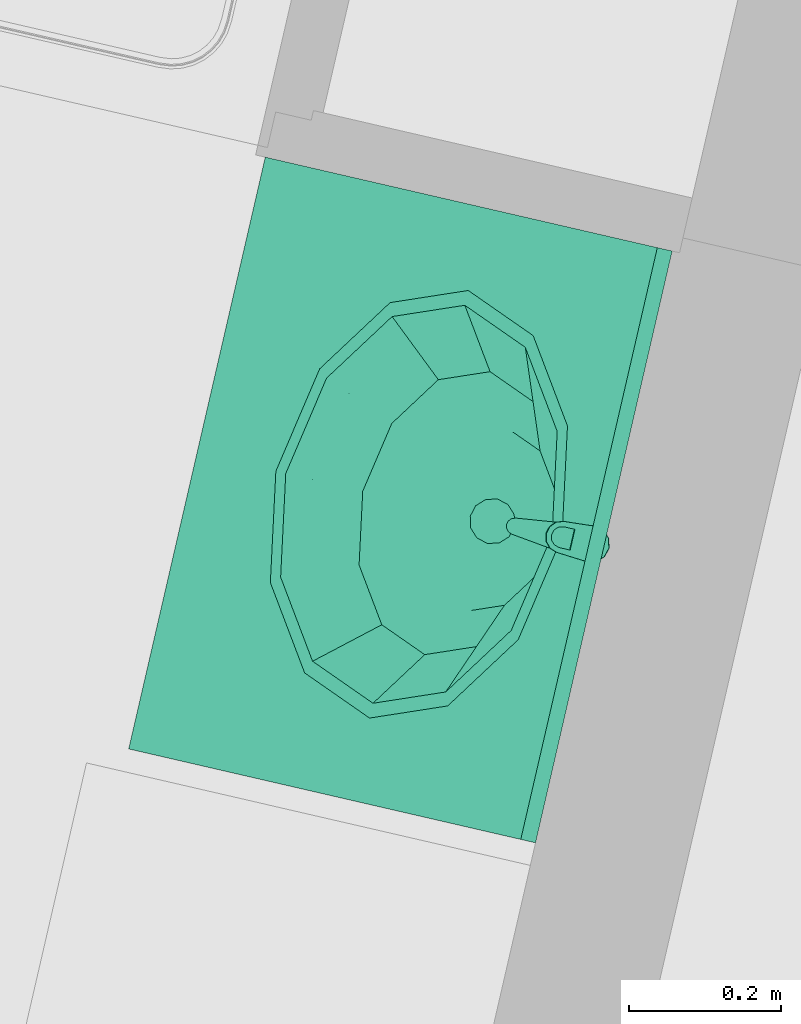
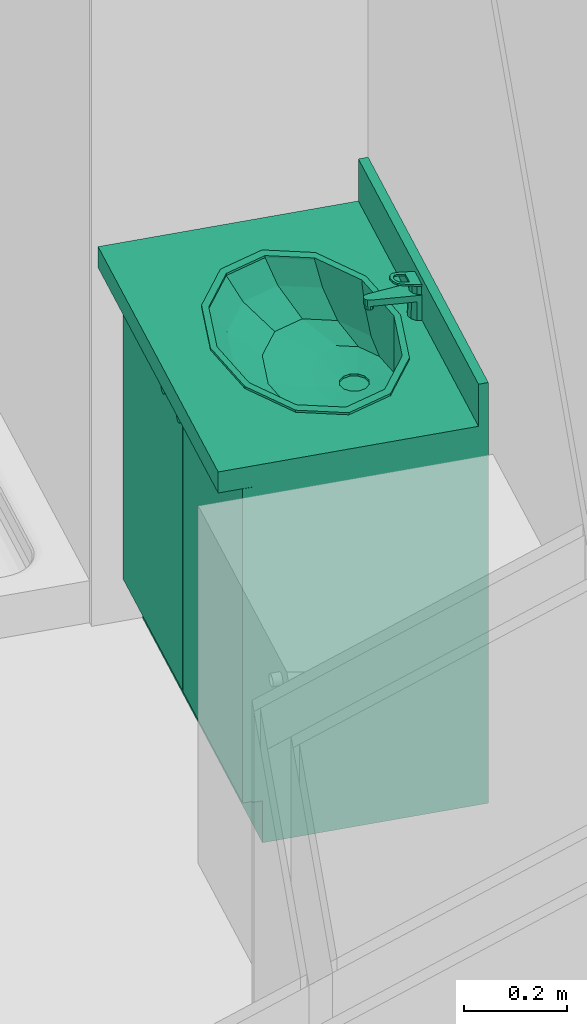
# One storey, part 77 of 90: 1 flow terminal.
"""IFC2X3 building model written with IfcOpenShell, lengths in metres."""

from ifc_helpers import new_model, entity, si_unit, converted_unit, derived_unit, money_unit, direction, frame, origin_with_axes, place, context, subcontext, project, spatial, open_shell, faceted_brep, surface_model, source, transform, mapped, type_object, element, save


model = new_model("IFC2X3")

# Units and contexts
model_context = context("Model", 3, precision=1e-05, world=origin_with_axes(), true_north=direction((0.0, 1.0)))
body_context = subcontext(model_context, "Body", "Model", "MODEL_VIEW")
ifc_project = project(units=[si_unit("LENGTHUNIT", "METRE"), si_unit("AREAUNIT", "SQUARE_METRE"), si_unit("VOLUMEUNIT", "CUBIC_METRE"), converted_unit("PLANEANGLEUNIT", "DEGREE", entity("IfcPlaneAngleMeasure", 0.0174532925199), si_unit("PLANEANGLEUNIT", "RADIAN"), dimensions=[0, 0, 0, 0, 0, 0, 0]), si_unit("SOLIDANGLEUNIT", "STERADIAN"), money_unit("EUR"), converted_unit("TIMEUNIT", "Year", entity("IfcTimeMeasure", 31556926.0), si_unit("TIMEUNIT", "SECOND"), dimensions=[0, 0, 1, 0, 0, 0, 0]), si_unit("MASSUNIT", "GRAM", prefix="KILO"), si_unit("THERMODYNAMICTEMPERATUREUNIT", "DEGREE_CELSIUS"), si_unit("LUMINOUSINTENSITYUNIT", "LUMEN"), si_unit("ENERGYUNIT", "JOULE", prefix="MEGA"), derived_unit("THERMALCONDUCTANCEUNIT", [(si_unit("POWERUNIT", "WATT"), 1), (si_unit("LENGTHUNIT", "METRE"), -1), (si_unit("THERMODYNAMICTEMPERATUREUNIT", "KELVIN"), -1)]), derived_unit("SPECIFICHEATCAPACITYUNIT", [(si_unit("ENERGYUNIT", "JOULE"), 1), (si_unit("MASSUNIT", "GRAM", prefix="KILO"), -1), (si_unit("THERMODYNAMICTEMPERATUREUNIT", "KELVIN"), -1)]), derived_unit("MASSDENSITYUNIT", [(si_unit("MASSUNIT", "GRAM", prefix="KILO"), 1), (si_unit("VOLUMEUNIT", "CUBIC_METRE"), -1)])], contexts=[model_context])

# Site, building, storey
site_placement = place(None, origin_with_axes())
site = spatial("IfcSite", under=ifc_project, at=site_placement, Name="Site", CompositionType="ELEMENT")
building_placement = place(site_placement, origin_with_axes())
building = spatial("IfcBuilding", under=site, at=building_placement, Name="Bâtiment", CompositionType="ELEMENT")
storey_placement = place(building_placement, frame((0.0, 0.0, 2.72), z_axis=(0.0, 0.0, 1.0), x_axis=(1.0, 0.0, 0.0)))
storey = spatial("IfcBuildingStorey", under=building, at=storey_placement, Name="R+1", CompositionType="ELEMENT", Elevation=2.72)

# Flow terminal
sanitary_terminal_type = type_object("IfcSanitaryTerminalType", Name="Lavabo sur meuble 23", PredefinedType="NOTDEFINED")
shared_shape = source(origin_with_axes(), body_context, "Body", "SurfaceModel", [
    faceted_brep([(0.0, 0.09, 0.0), (0.0, 0.09, 0.1), (-0.8, 0.09, 0.1), (-0.8, 0.09, 0.0), (0.0, 0.55, 0.0), (0.0, 0.55, 0.1), (-0.8, 0.55, 0.1), (-0.8, 0.55, 0.0)], [[[0, 1, 2, 3]], [[4, 5, 1, 0]], [[1, 5, 6, 2]], [[3, 2, 6, 7]], [[0, 3, 7, 4]], [[7, 6, 5, 4]]]),
    faceted_brep([(0.0, 0.07, 0.1), (0.0, 0.07, 0.12), (-0.02, 0.07, 0.12), (-0.02, 0.07, 0.1), (0.0, 0.55, 0.1), (0.0, 0.55, 0.12), (-0.02, 0.55, 0.12), (-0.78, 0.55, 0.12), (-0.8, 0.55, 0.12), (-0.8, 0.07, 0.12), (-0.78, 0.07, 0.12), (-0.78, 0.07, 0.1), (-0.8, 0.07, 0.1), (-0.8, 0.55, 0.1), (-0.78, 0.55, 0.1), (-0.02, 0.55, 0.1)], [[[0, 1, 2, 3]], [[4, 5, 1, 0]], [[1, 5, 6, 7, 8, 9, 10, 2]], [[3, 2, 10, 11]], [[0, 3, 11, 12, 13, 14, 15, 4]], [[15, 6, 5, 4]], [[14, 7, 6, 15]], [[13, 8, 7, 14]], [[12, 9, 8, 13]], [[11, 10, 9, 12]]]),
    faceted_brep([(0.0, 0.07, 0.12), (0.0, 0.07, 0.85), (-0.02, 0.07, 0.85), (-0.02, 0.07, 0.12), (0.0, 0.55, 0.12), (0.0, 0.55, 0.85), (-0.8, 0.55, 0.85), (-0.8, 0.07, 0.85), (-0.78, 0.07, 0.85), (-0.78, 0.53, 0.85), (-0.02, 0.53, 0.85), (-0.02, 0.53, 0.12), (-0.78, 0.53, 0.12), (-0.78, 0.07, 0.12), (-0.8, 0.07, 0.12), (-0.8, 0.55, 0.12)], [[[0, 1, 2, 3]], [[4, 5, 1, 0]], [[1, 5, 6, 7, 8, 9, 10, 2]], [[3, 2, 10, 11]], [[0, 3, 11, 12, 13, 14, 15, 4]], [[15, 6, 5, 4]], [[14, 7, 6, 15]], [[13, 8, 7, 14]], [[12, 9, 8, 13]], [[11, 10, 9, 12]]]),
    faceted_brep([(-0.78, 0.07, 0.323333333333), (-0.78, 0.07, 0.343333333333), (-0.78, 0.53, 0.343333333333), (-0.78, 0.53, 0.323333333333), (-0.02, 0.07, 0.323333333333), (-0.02, 0.07, 0.343333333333), (-0.02, 0.53, 0.343333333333), (-0.02, 0.53, 0.323333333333)], [[[0, 1, 2, 3]], [[4, 5, 1, 0]], [[1, 5, 6, 2]], [[3, 2, 6, 7]], [[0, 3, 7, 4]], [[7, 6, 5, 4]]]),
    faceted_brep([(-0.78, 0.07, 0.566666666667), (-0.78, 0.07, 0.586666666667), (-0.78, 0.53, 0.586666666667), (-0.78, 0.53, 0.566666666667), (-0.02, 0.07, 0.566666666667), (-0.02, 0.07, 0.586666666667), (-0.02, 0.53, 0.586666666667), (-0.02, 0.53, 0.566666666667)], [[[0, 1, 2, 3]], [[4, 5, 1, 0]], [[1, 5, 6, 2]], [[3, 2, 6, 7]], [[0, 3, 7, 4]], [[7, 6, 5, 4]]]),
    faceted_brep([(0.0, 0.55, 0.85), (0.0, 0.0, 0.85), (-0.8, 0.0, 0.85), (-0.8, 0.55, 0.85), (-0.535, 0.144115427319, 0.85), (-0.4, 0.12, 0.85), (-0.265, 0.144115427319, 0.85), (-0.166173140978, 0.21, 0.85), (-0.13, 0.3, 0.85), (-0.166173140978, 0.39, 0.85), (-0.265, 0.455884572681, 0.85), (-0.4, 0.48, 0.85), (-0.535, 0.455884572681, 0.85), (-0.633826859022, 0.39, 0.85), (-0.67, 0.3, 0.85), (-0.633826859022, 0.21, 0.85), (0.0, 0.55, 0.9), (0.0, 0.0, 0.9), (-0.8, 0.0, 0.9), (-0.8, 0.55, 0.9), (-0.4, 0.12, 0.9), (-0.535, 0.144115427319, 0.9), (-0.265, 0.144115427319, 0.9), (-0.166173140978, 0.21, 0.9), (-0.13, 0.3, 0.9), (-0.166173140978, 0.39, 0.9), (-0.265, 0.455884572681, 0.9), (-0.4, 0.48, 0.9), (-0.535, 0.455884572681, 0.9), (-0.633826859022, 0.39, 0.9), (-0.67, 0.3, 0.9), (-0.633826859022, 0.21, 0.9)], [[[0, 1, 2, 3], [4, 5, 6, 7, 8, 9, 10, 11, 12, 13, 14, 15]], [[1, 0, 16, 17]], [[2, 1, 17, 18]], [[3, 2, 18, 19]], [[0, 3, 19, 16]], [[20, 5, 4, 21]], [[22, 6, 5, 20]], [[23, 7, 6, 22]], [[24, 8, 7, 23]], [[25, 9, 8, 24]], [[26, 10, 9, 25]], [[27, 11, 10, 26]], [[28, 12, 11, 27]], [[29, 13, 12, 28]], [[30, 14, 13, 29]], [[31, 15, 14, 30]], [[21, 4, 15, 31]], [[18, 17, 16, 19], [28, 27, 26, 25, 24, 23, 22, 20, 21, 31, 30, 29]]]),
    faceted_brep([(0.0, 0.53, 0.9), (0.0, 0.53, 1.0), (-0.8, 0.53, 1.0), (-0.8, 0.53, 0.9), (0.0, 0.55, 0.9), (0.0, 0.55, 1.0), (-0.8, 0.55, 1.0), (-0.8, 0.55, 0.9)], [[[0, 1, 2, 3]], [[4, 5, 1, 0]], [[1, 5, 6, 2]], [[3, 2, 6, 7]], [[0, 3, 7, 4]], [[7, 6, 5, 4]]]),
    faceted_brep([(-0.689, 0.3, 0.905), (-0.650281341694, 0.396691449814, 0.905), (-0.650281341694, 0.396691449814, 0.9), (-0.689, 0.3, 0.9), (-0.650281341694, 0.203308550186, 0.905), (-0.5445, 0.132525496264, 0.905), (-0.4, 0.106617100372, 0.905), (-0.2555, 0.132525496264, 0.905), (-0.149718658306, 0.203308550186, 0.905), (-0.111, 0.3, 0.905), (-0.149718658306, 0.396691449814, 0.905), (-0.2555, 0.467474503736, 0.905), (-0.4, 0.493382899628, 0.905), (-0.5445, 0.467474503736, 0.905), (-0.669, 0.3, 0.905), (-0.632960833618, 0.39, 0.905), (-0.5345, 0.455884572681, 0.905), (-0.4, 0.48, 0.905), (-0.2655, 0.455884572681, 0.905), (-0.167039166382, 0.39, 0.905), (-0.131, 0.3, 0.905), (-0.167039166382, 0.21, 0.905), (-0.2655, 0.144115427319, 0.905), (-0.4, 0.12, 0.905), (-0.5345, 0.144115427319, 0.905), (-0.632960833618, 0.21, 0.905), (-0.5445, 0.467474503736, 0.9), (-0.4, 0.493382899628, 0.9), (-0.2555, 0.467474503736, 0.9), (-0.149718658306, 0.396691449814, 0.9), (-0.111, 0.3, 0.9), (-0.149718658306, 0.203308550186, 0.9), (-0.2555, 0.132525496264, 0.9), (-0.4, 0.106617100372, 0.9), (-0.5445, 0.132525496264, 0.9), (-0.650281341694, 0.203308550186, 0.9), (-0.669, 0.3, 0.9), (-0.632960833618, 0.21, 0.9), (-0.5345, 0.144115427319, 0.9), (-0.4, 0.12, 0.9), (-0.2655, 0.144115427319, 0.9), (-0.167039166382, 0.21, 0.9), (-0.131, 0.3, 0.9), (-0.167039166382, 0.39, 0.9), (-0.2655, 0.455884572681, 0.9), (-0.4, 0.48, 0.9), (-0.5345, 0.455884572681, 0.9), (-0.632960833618, 0.39, 0.9)], [[[0, 1, 2, 3]], [[0, 4, 5, 6, 7, 8, 9, 10, 11, 12, 13, 1], [14, 15, 16, 17, 18, 19, 20, 21, 22, 23, 24, 25]], [[1, 13, 26, 2]], [[3, 2, 26, 27, 28, 29, 30, 31, 32, 33, 34, 35], [36, 37, 38, 39, 40, 41, 42, 43, 44, 45, 46, 47]], [[4, 0, 3, 35]], [[5, 4, 35, 34]], [[6, 5, 34, 33]], [[7, 6, 33, 32]], [[8, 7, 32, 31]], [[9, 8, 31, 30]], [[10, 9, 30, 29]], [[11, 10, 29, 28]], [[12, 11, 28, 27]], [[13, 12, 27, 26]], [[15, 14, 36, 47]], [[16, 15, 47, 46]], [[17, 16, 46, 45]], [[18, 17, 45, 44]], [[19, 18, 44, 43]], [[20, 19, 43, 42]], [[21, 20, 42, 41]], [[22, 21, 41, 40]], [[23, 22, 40, 39]], [[24, 23, 39, 38]], [[25, 24, 38, 37]], [[14, 25, 37, 36]]]),
    surface_model("IfcShellBasedSurfaceModel", [(-0.4, 0.48, 0.9), (-0.5345, 0.455884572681, 0.9), (-0.52105, 0.458296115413, 0.848), (-0.4, 0.48, 0.848), (-0.632960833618, 0.39, 0.9), (-0.609664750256, 0.399, 0.848), (-0.2655, 0.455884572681, 0.9), (-0.27895, 0.458296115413, 0.848), (-0.669, 0.3, 0.9), (-0.6421, 0.318, 0.848), (-0.167039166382, 0.39, 0.9), (-0.190335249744, 0.399, 0.848), (-0.632960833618, 0.21, 0.9), (-0.609664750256, 0.237, 0.848), (-0.131, 0.3, 0.9), (-0.1579, 0.318, 0.848), (-0.5345, 0.144115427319, 0.9), (-0.52105, 0.177703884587, 0.848), (-0.167039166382, 0.21, 0.9), (-0.190335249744, 0.237, 0.848), (-0.4, 0.12, 0.9), (-0.4, 0.156, 0.848), (-0.2655, 0.144115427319, 0.9), (-0.27895, 0.177703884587, 0.848)], [open_shell([[[0, 1, 2, 3]], [[1, 4, 5, 2]], [[6, 0, 3, 7]], [[4, 8, 9, 5]], [[10, 6, 7, 11]], [[8, 12, 13, 9]], [[14, 10, 11, 15]], [[12, 16, 17, 13]], [[18, 14, 15, 19]], [[16, 20, 21, 17]], [[22, 18, 19, 23]], [[20, 22, 23, 21]]])]),
    surface_model("IfcShellBasedSurfaceModel", [(-0.4, 0.48, 0.848), (-0.52105, 0.458296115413, 0.848), (-0.4956295, 0.462853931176, 0.796), (-0.4, 0.48, 0.796), (-0.609664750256, 0.399, 0.848), (-0.565635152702, 0.41601, 0.796), (-0.27895, 0.458296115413, 0.848), (-0.3043705, 0.462853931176, 0.796), (-0.6421, 0.318, 0.848), (-0.591259, 0.35202, 0.796), (-0.190335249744, 0.399, 0.848), (-0.234364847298, 0.41601, 0.796), (-0.609664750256, 0.237, 0.848), (-0.565635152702, 0.28803, 0.796), (-0.1579, 0.318, 0.848), (-0.208741, 0.35202, 0.796), (-0.52105, 0.177703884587, 0.848), (-0.4956295, 0.241186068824, 0.796), (-0.190335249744, 0.237, 0.848), (-0.234364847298, 0.28803, 0.796), (-0.4, 0.156, 0.848), (-0.4, 0.22404, 0.796), (-0.27895, 0.177703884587, 0.848), (-0.3043705, 0.241186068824, 0.796)], [open_shell([[[0, 1, 2, 3]], [[1, 4, 5, 2]], [[6, 0, 3, 7]], [[4, 8, 9, 5]], [[10, 6, 7, 11]], [[8, 12, 13, 9]], [[14, 10, 11, 15]], [[12, 16, 17, 13]], [[18, 14, 15, 19]], [[16, 20, 21, 17]], [[22, 18, 19, 23]], [[20, 22, 23, 21]]])]),
    surface_model("IfcShellBasedSurfaceModel", [(-0.4, 0.48, 0.796), (-0.4956295, 0.462853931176, 0.796), (-0.460246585, 0.469197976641, 0.77), (-0.4, 0.48, 0.77), (-0.565635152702, 0.41601, 0.796), (-0.504350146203, 0.4396863, 0.77), (-0.3043705, 0.462853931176, 0.796), (-0.339753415, 0.469197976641, 0.77), (-0.591259, 0.35202, 0.796), (-0.52049317, 0.3993726, 0.77), (-0.234364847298, 0.41601, 0.796), (-0.295649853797, 0.4396863, 0.77), (-0.565635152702, 0.28803, 0.796), (-0.504350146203, 0.3590589, 0.77), (-0.208741, 0.35202, 0.796), (-0.27950683, 0.3993726, 0.77), (-0.4956295, 0.241186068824, 0.796), (-0.460246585, 0.329547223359, 0.77), (-0.234364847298, 0.28803, 0.796), (-0.295649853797, 0.3590589, 0.77), (-0.4, 0.22404, 0.796), (-0.4, 0.3187452, 0.77), (-0.3043705, 0.241186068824, 0.796), (-0.339753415, 0.329547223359, 0.77)], [open_shell([[[0, 1, 2, 3]], [[1, 4, 5, 2]], [[6, 0, 3, 7]], [[4, 8, 9, 5]], [[10, 6, 7, 11]], [[8, 12, 13, 9]], [[14, 10, 11, 15]], [[12, 16, 17, 13]], [[18, 14, 15, 19]], [[16, 20, 21, 17]], [[22, 18, 19, 23]], [[20, 22, 23, 21]]])]),
    surface_model("IfcShellBasedSurfaceModel", [(-0.4, 0.48, 0.77), (-0.460246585, 0.469197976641, 0.77), (-0.415, 0.425353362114, 0.763), (-0.425980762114, 0.4143726, 0.763), (-0.4, 0.4293726, 0.763), (-0.504350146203, 0.4396863, 0.77), (-0.339753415, 0.469197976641, 0.77), (-0.43, 0.3993726, 0.763), (-0.385, 0.425353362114, 0.763), (-0.52049317, 0.3993726, 0.77), (-0.295649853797, 0.4396863, 0.77), (-0.425980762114, 0.3843726, 0.763), (-0.374019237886, 0.4143726, 0.763), (-0.504350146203, 0.3590589, 0.77), (-0.27950683, 0.3993726, 0.77), (-0.415, 0.373391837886, 0.763), (-0.37, 0.3993726, 0.763), (-0.460246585, 0.329547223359, 0.77), (-0.295649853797, 0.3590589, 0.77), (-0.4, 0.3693726, 0.763), (-0.374019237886, 0.3843726, 0.763), (-0.4, 0.3187452, 0.77), (-0.339753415, 0.329547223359, 0.77), (-0.385, 0.373391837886, 0.763)], [open_shell([[[0, 1, 2]], [[1, 3, 2]], [[0, 2, 4]], [[1, 5, 3]], [[6, 0, 4]], [[5, 7, 3]], [[6, 4, 8]], [[5, 9, 7]], [[10, 6, 8]], [[9, 11, 7]], [[10, 8, 12]], [[9, 13, 11]], [[14, 10, 12]], [[13, 15, 11]], [[14, 12, 16]], [[13, 17, 15]], [[18, 14, 16]], [[17, 19, 15]], [[18, 16, 20]], [[17, 21, 19]], [[22, 18, 20]], [[21, 23, 19]], [[22, 20, 23]], [[21, 22, 23]]])]),
    surface_model("IfcShellBasedSurfaceModel", [(-0.43, 0.3993726, 0.763), (-0.425980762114, 0.4143726, 0.763), (-0.425980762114, 0.4143726, 0.758), (-0.43, 0.3993726, 0.758), (-0.415, 0.425353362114, 0.763), (-0.415, 0.425353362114, 0.758), (-0.4, 0.4293726, 0.758), (-0.385, 0.425353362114, 0.758), (-0.374019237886, 0.4143726, 0.758), (-0.37, 0.3993726, 0.758), (-0.374019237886, 0.3843726, 0.758), (-0.385, 0.373391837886, 0.758), (-0.4, 0.3693726, 0.758), (-0.415, 0.373391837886, 0.758), (-0.425980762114, 0.3843726, 0.758), (-0.425980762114, 0.3843726, 0.763), (-0.4, 0.4293726, 0.763), (-0.385, 0.425353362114, 0.763), (-0.374019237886, 0.4143726, 0.763), (-0.37, 0.3993726, 0.763), (-0.374019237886, 0.3843726, 0.763), (-0.385, 0.373391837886, 0.763), (-0.4, 0.3693726, 0.763), (-0.415, 0.373391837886, 0.763)], [open_shell([[[0, 1, 2, 3]], [[1, 4, 5, 2]], [[3, 2, 5, 6, 7, 8, 9, 10, 11, 12, 13, 14]], [[15, 0, 3, 14]], [[4, 16, 6, 5]], [[16, 17, 7, 6]], [[17, 18, 8, 7]], [[18, 19, 9, 8]], [[19, 20, 10, 9]], [[20, 21, 11, 10]], [[21, 22, 12, 11]], [[22, 23, 13, 12]], [[23, 15, 14, 13]]])]),
    faceted_brep([(-0.4125, 0.554150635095, 0.9), (-0.410587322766, 0.550837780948, 0.976507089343), (-0.4, 0.553701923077, 0.975961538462), (-0.4, 0.5575, 0.9), (-0.421650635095, 0.545, 0.9), (-0.418273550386, 0.543050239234, 0.977990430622), (-0.421, 0.5325, 0.98), (-0.418100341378, 0.522049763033, 0.981990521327), (-0.410414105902, 0.514462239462, 0.983435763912), (-0.4, 0.511698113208, 0.983962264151), (-0.389585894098, 0.514462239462, 0.983435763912), (-0.381899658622, 0.522049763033, 0.981990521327), (-0.379, 0.5325, 0.98), (-0.381726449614, 0.543050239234, 0.977990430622), (-0.389412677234, 0.550837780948, 0.976507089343), (-0.3875, 0.554150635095, 0.9), (-0.378349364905, 0.545, 0.9), (-0.375, 0.5325, 0.9), (-0.378349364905, 0.52, 0.9), (-0.3875, 0.510849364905, 0.9), (-0.4, 0.5075, 0.9), (-0.4125, 0.510849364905, 0.9), (-0.421650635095, 0.52, 0.9), (-0.425, 0.5325, 0.9)], [[[0, 1, 2, 3]], [[4, 5, 1, 0]], [[1, 5, 6, 7, 8, 9, 10, 11, 12, 13, 14, 2]], [[3, 2, 14, 15]], [[0, 3, 15, 16, 17, 18, 19, 20, 21, 22, 23, 4]], [[23, 6, 5, 4]], [[22, 7, 6, 23]], [[21, 8, 7, 22]], [[20, 9, 8, 21]], [[19, 10, 9, 20]], [[18, 11, 10, 19]], [[17, 12, 11, 18]], [[16, 13, 12, 17]], [[15, 14, 13, 16]]]),
    faceted_brep([(-0.409, 0.4295, 0.935), (-0.409, 0.4295, 0.945), (-0.407794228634, 0.434, 0.945), (-0.407794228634, 0.434, 0.935), (-0.407794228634, 0.425, 0.935), (-0.407794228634, 0.425, 0.945), (-0.4045, 0.421705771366, 0.945), (-0.4, 0.4205, 0.945), (-0.3955, 0.421705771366, 0.945), (-0.392205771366, 0.425, 0.945), (-0.391, 0.4295, 0.945), (-0.392205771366, 0.434, 0.945), (-0.3955, 0.437294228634, 0.945), (-0.4, 0.4385, 0.945), (-0.4045, 0.437294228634, 0.945), (-0.4045, 0.437294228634, 0.935), (-0.4, 0.4385, 0.935), (-0.3955, 0.437294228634, 0.935), (-0.392205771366, 0.434, 0.935), (-0.391, 0.4295, 0.935), (-0.392205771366, 0.425, 0.935), (-0.3955, 0.421705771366, 0.935), (-0.4, 0.4205, 0.935), (-0.4045, 0.421705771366, 0.935)], [[[0, 1, 2, 3]], [[4, 5, 1, 0]], [[1, 5, 6, 7, 8, 9, 10, 11, 12, 13, 14, 2]], [[3, 2, 14, 15]], [[0, 3, 15, 16, 17, 18, 19, 20, 21, 22, 23, 4]], [[23, 6, 5, 4]], [[22, 7, 6, 23]], [[21, 8, 7, 22]], [[20, 9, 8, 21]], [[19, 10, 9, 20]], [[18, 11, 10, 19]], [[17, 12, 11, 18]], [[16, 13, 12, 17]], [[15, 14, 13, 16]]]),
    faceted_brep([(-0.387128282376, 0.552756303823, 0.96), (-0.40000000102, 0.556499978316, 0.96), (-0.412871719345, 0.552756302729, 0.96), (-0.421727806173, 0.542693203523, 0.96), (-0.423805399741, 0.529450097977, 0.96), (-0.410912, 0.4281117, 0.96), (-0.409028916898, 0.423216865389, 0.96), (-0.405093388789, 0.419750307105, 0.96), (-0.400000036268, 0.41850003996, 0.96), (-0.394906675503, 0.419750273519, 0.96), (-0.390971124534, 0.423216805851, 0.96), (-0.389088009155, 0.428111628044, 0.96), (-0.3761946, 0.5294501, 0.96), (-0.378272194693, 0.54269320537, 0.96), (-0.411, 0.551552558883, 0.96), (-0.4, 0.5545, 0.96), (-0.389, 0.551552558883, 0.96), (-0.380947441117, 0.5435, 0.96), (-0.378, 0.5325, 0.96), (-0.380947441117, 0.5215, 0.96), (-0.389, 0.513447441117, 0.96), (-0.4, 0.5105, 0.96), (-0.411, 0.513447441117, 0.96), (-0.419052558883, 0.5215, 0.96), (-0.422, 0.5325, 0.96), (-0.419052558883, 0.5435, 0.96), (-0.387128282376, 0.552756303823, 0.945), (-0.40000000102, 0.556499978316, 0.945), (-0.412871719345, 0.552756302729, 0.945), (-0.421727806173, 0.542693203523, 0.945), (-0.423805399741, 0.529450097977, 0.945), (-0.410912, 0.4281117, 0.945), (-0.409028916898, 0.423216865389, 0.945), (-0.405093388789, 0.419750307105, 0.945), (-0.400000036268, 0.41850003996, 0.945), (-0.394906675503, 0.419750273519, 0.945), (-0.390971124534, 0.423216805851, 0.945), (-0.389088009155, 0.428111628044, 0.945), (-0.3761946, 0.5294501, 0.945), (-0.378272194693, 0.54269320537, 0.945), (-0.4, 0.55525, 0.945), (-0.411375, 0.552202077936, 0.945), (-0.388625, 0.552202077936, 0.945), (-0.380297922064, 0.543875, 0.945), (-0.37725, 0.5325, 0.945), (-0.380297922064, 0.521125, 0.945), (-0.388625, 0.512797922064, 0.945), (-0.4, 0.50975, 0.945), (-0.411375, 0.512797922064, 0.945), (-0.419702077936, 0.521125, 0.945), (-0.42275, 0.5325, 0.945), (-0.419702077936, 0.543875, 0.945)], [[[0, 1, 2, 3, 4, 5, 6, 7, 8, 9, 10, 11, 12, 13], [14, 15, 16, 17, 18, 19, 20, 21, 22, 23, 24, 25]], [[26, 27, 1, 0]], [[27, 28, 2, 1]], [[28, 29, 3, 2]], [[29, 30, 4, 3]], [[30, 31, 5, 4]], [[31, 32, 6, 5]], [[32, 33, 7, 6]], [[33, 34, 8, 7]], [[34, 35, 9, 8]], [[35, 36, 10, 9]], [[36, 37, 11, 10]], [[37, 38, 12, 11]], [[38, 39, 13, 12]], [[39, 26, 0, 13]], [[40, 15, 14, 41]], [[42, 16, 15, 40]], [[16, 42, 43, 17]], [[17, 43, 44, 18]], [[18, 44, 45, 19]], [[19, 45, 46, 20]], [[20, 46, 47, 21]], [[48, 22, 21, 47]], [[49, 23, 22, 48]], [[50, 24, 23, 49]], [[51, 25, 24, 50]], [[41, 14, 25, 51]], [[34, 33, 32, 31, 30, 29, 28, 27, 26, 39, 38, 37, 36, 35], [48, 47, 46, 45, 44, 43, 42, 40, 41, 51, 50, 49]]]),
    faceted_brep([(-0.423893, 0.53080743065, 0.980322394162), (-0.423893, 0.531555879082, 0.984251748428), (-0.421296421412, 0.544023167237, 0.981877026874), (-0.421296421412, 0.543274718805, 0.977947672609), (-0.420945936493, 0.490663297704, 0.987968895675), (-0.420945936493, 0.491411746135, 0.991898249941), (-0.417663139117, 0.48173408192, 0.993741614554), (-0.410061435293, 0.47478470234, 0.995065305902), (-0.399999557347, 0.472262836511, 0.995545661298), (-0.389937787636, 0.474785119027, 0.995065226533), (-0.382336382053, 0.481734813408, 0.993741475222), (-0.379054, 0.491412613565, 0.991898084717), (-0.376106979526, 0.531556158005, 0.984251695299), (-0.378703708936, 0.544023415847, 0.98187697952), (-0.38752831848, 0.553339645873, 0.980102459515), (-0.400000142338, 0.556780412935, 0.979447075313), (-0.41247192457, 0.553339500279, 0.980102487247), (-0.414, 0.507707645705, 0.988794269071), (-0.386, 0.507707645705, 0.988794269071), (-0.386, 0.492892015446, 0.991616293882), (-0.387875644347, 0.486015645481, 0.992926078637), (-0.393, 0.480981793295, 0.993884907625), (-0.4, 0.479139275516, 0.994235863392), (-0.407, 0.480981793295, 0.993884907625), (-0.412124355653, 0.486015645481, 0.992926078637), (-0.414, 0.492892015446, 0.991616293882), (-0.41247192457, 0.552591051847, 0.976173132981), (-0.400000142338, 0.556031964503, 0.975517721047), (-0.38752831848, 0.552591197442, 0.976173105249), (-0.378703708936, 0.543274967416, 0.977947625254), (-0.376106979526, 0.530807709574, 0.980322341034), (-0.379054, 0.490664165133, 0.987968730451), (-0.382336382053, 0.480986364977, 0.989812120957), (-0.389937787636, 0.474036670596, 0.991135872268), (-0.399999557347, 0.47151438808, 0.991616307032), (-0.410061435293, 0.474036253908, 0.991135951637), (-0.417663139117, 0.480985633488, 0.989812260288), (-0.414, 0.506959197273, 0.984864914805), (-0.414, 0.492143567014, 0.987686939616), (-0.412124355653, 0.485267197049, 0.988996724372), (-0.407, 0.480233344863, 0.989955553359), (-0.4, 0.478390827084, 0.990306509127), (-0.393, 0.480233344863, 0.989955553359), (-0.387875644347, 0.485267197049, 0.988996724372), (-0.386, 0.492143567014, 0.987686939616), (-0.386, 0.506959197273, 0.984864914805)], [[[0, 1, 2, 3]], [[4, 5, 1, 0]], [[1, 5, 6, 7, 8, 9, 10, 11, 12, 13, 14, 15, 16, 2], [17, 18, 19, 20, 21, 22, 23, 24, 25]], [[3, 2, 16, 26]], [[0, 3, 26, 27, 28, 29, 30, 31, 32, 33, 34, 35, 36, 4], [37, 38, 39, 40, 41, 42, 43, 44, 45]], [[36, 6, 5, 4]], [[35, 7, 6, 36]], [[34, 8, 7, 35]], [[33, 9, 8, 34]], [[32, 10, 9, 33]], [[31, 11, 10, 32]], [[30, 12, 11, 31]], [[29, 13, 12, 30]], [[28, 14, 13, 29]], [[27, 15, 14, 28]], [[26, 16, 15, 27]], [[45, 18, 17, 37]], [[44, 19, 18, 45]], [[43, 20, 19, 44]], [[42, 21, 20, 43]], [[41, 22, 21, 42]], [[40, 23, 22, 41]], [[39, 24, 23, 40]], [[38, 25, 24, 39]], [[37, 17, 25, 38]]]),
    faceted_brep([(-0.0015, 0.07, 0.1015), (-0.0015, 0.05, 0.1015), (-0.3985, 0.05, 0.1015), (-0.3985, 0.07, 0.1015), (-0.0015, 0.07, 0.8485), (-0.0015, 0.05, 0.8485), (-0.3985, 0.05, 0.8485), (-0.3985, 0.07, 0.8485)], [[[0, 1, 2, 3]], [[4, 5, 1, 0]], [[1, 5, 6, 2]], [[3, 2, 6, 7]], [[0, 3, 7, 4]], [[7, 6, 5, 4]]]),
    faceted_brep([(-0.358892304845, 0.05, 0.7855), (-0.3605, 0.05, 0.7915), (-0.358892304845, 0.05, 0.7975), (-0.3545, 0.05, 0.801892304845), (-0.3485, 0.05, 0.8035), (-0.3425, 0.05, 0.801892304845), (-0.338107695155, 0.05, 0.7975), (-0.3365, 0.05, 0.7915), (-0.338107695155, 0.05, 0.7855), (-0.3425, 0.05, 0.781107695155), (-0.3485, 0.05, 0.7795), (-0.3545, 0.05, 0.781107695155), (-0.358892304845, 0.025, 0.7855), (-0.3605, 0.025, 0.7915), (-0.358892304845, 0.025, 0.7975), (-0.3545, 0.025, 0.801892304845), (-0.3485, 0.025, 0.8035), (-0.3425, 0.025, 0.801892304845), (-0.338107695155, 0.025, 0.7975), (-0.3365, 0.025, 0.7915), (-0.338107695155, 0.025, 0.7855), (-0.3425, 0.025, 0.781107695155), (-0.3485, 0.025, 0.7795), (-0.3545, 0.025, 0.781107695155)], [[[0, 1, 2, 3, 4, 5, 6, 7, 8, 9, 10, 11]], [[0, 12, 13, 1]], [[1, 13, 14, 2]], [[2, 14, 15, 3]], [[3, 15, 16, 4]], [[4, 16, 17, 5]], [[5, 17, 18, 6]], [[6, 18, 19, 7]], [[7, 19, 20, 8]], [[8, 20, 21, 9]], [[9, 21, 22, 10]], [[10, 22, 23, 11]], [[11, 23, 12, 0]], [[12, 23, 22, 21, 20, 19, 18, 17, 16, 15, 14, 13]]]),
    faceted_brep([(-0.7985, 0.07, 0.1015), (-0.4015, 0.07, 0.1015), (-0.4015, 0.05, 0.1015), (-0.7985, 0.05, 0.1015), (-0.7985, 0.07, 0.8485), (-0.4015, 0.07, 0.8485), (-0.4015, 0.05, 0.8485), (-0.7985, 0.05, 0.8485)], [[[0, 1, 2, 3]], [[0, 4, 5, 1]], [[1, 5, 6, 2]], [[3, 2, 6, 7]], [[4, 0, 3, 7]], [[5, 4, 7, 6]]]),
    faceted_brep([(-0.441107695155, 0.05, 0.7855), (-0.4455, 0.05, 0.781107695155), (-0.4515, 0.05, 0.7795), (-0.4575, 0.05, 0.781107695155), (-0.461892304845, 0.05, 0.7855), (-0.4635, 0.05, 0.7915), (-0.461892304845, 0.05, 0.7975), (-0.4575, 0.05, 0.801892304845), (-0.4515, 0.05, 0.8035), (-0.4455, 0.05, 0.801892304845), (-0.441107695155, 0.05, 0.7975), (-0.4395, 0.05, 0.7915), (-0.441107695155, 0.025, 0.7855), (-0.4455, 0.025, 0.781107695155), (-0.4515, 0.025, 0.7795), (-0.4575, 0.025, 0.781107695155), (-0.461892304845, 0.025, 0.7855), (-0.4635, 0.025, 0.7915), (-0.461892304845, 0.025, 0.7975), (-0.4575, 0.025, 0.801892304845), (-0.4515, 0.025, 0.8035), (-0.4455, 0.025, 0.801892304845), (-0.441107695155, 0.025, 0.7975), (-0.4395, 0.025, 0.7915)], [[[0, 1, 2, 3, 4, 5, 6, 7, 8, 9, 10, 11]], [[1, 0, 12, 13]], [[2, 1, 13, 14]], [[3, 2, 14, 15]], [[4, 3, 15, 16]], [[5, 4, 16, 17]], [[6, 5, 17, 18]], [[7, 6, 18, 19]], [[8, 7, 19, 20]], [[9, 8, 20, 21]], [[10, 9, 21, 22]], [[11, 10, 22, 23]], [[0, 11, 23, 12]], [[12, 23, 22, 21, 20, 19, 18, 17, 16, 15, 14, 13]]]),
])
flow_terminal_placement = place(storey_placement, frame((-11.309830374, 0.742763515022, 0.0), z_axis=(0.0, 0.0, 1.0), x_axis=(-0.224876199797, -0.974387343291, 0.0)))
element("IfcFlowTerminal", 1, at=flow_terminal_placement, inside=storey, type_object=sanitary_terminal_type, Name="MOB-002", ObjectType="SANITARY_TERMINAL", context=body_context, shape_type="MappedRepresentation", body=[
    mapped(shared_shape, transform((0.0, 0.0, 0.0))),
])

save(model, "model.ifc")
